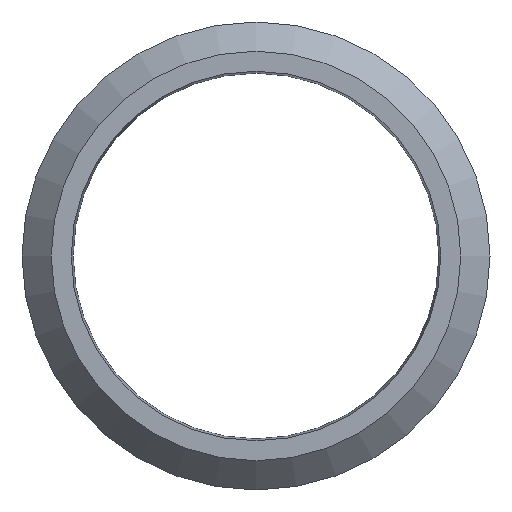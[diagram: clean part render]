
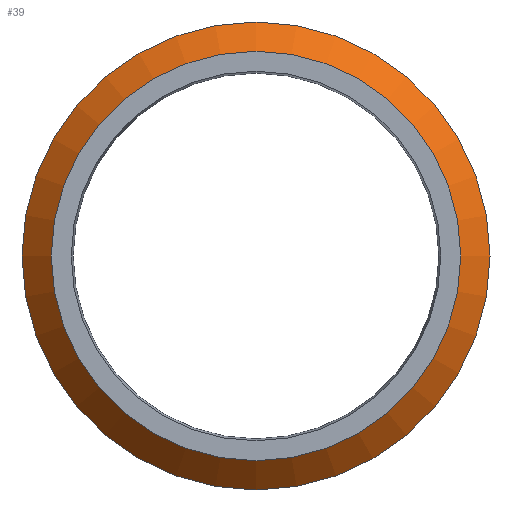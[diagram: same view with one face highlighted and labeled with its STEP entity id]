
A CAD part, left-side view. The second image highlights one B-rep face of the part: STEP entity #39.
In plain terms, the highlighted conical face has half-angle 45 degrees and reference radius 15 mm.
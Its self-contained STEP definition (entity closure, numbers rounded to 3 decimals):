
#39 = ADVANCED_FACE( '', ( #86, #87 ), #88, .T. );
#86 = FACE_BOUND( '', #153, .T. );
#87 = FACE_OUTER_BOUND( '', #154, .T. );
#88 = CONICAL_SURFACE( '', #155, 15., 0.785 );
#153 = EDGE_LOOP( '', ( #248 ) );
#154 = EDGE_LOOP( '', ( #249 ) );
#155 = AXIS2_PLACEMENT_3D( '', #250, #251, #252 );
#248 = ORIENTED_EDGE( '', *, *, #335, .T. );
#249 = ORIENTED_EDGE( '', *, *, #336, .T. );
#250 = CARTESIAN_POINT( '', ( -6.325, -8.332, 0. ) );
#251 = DIRECTION( '', ( 1., 0., 0. ) );
#252 = DIRECTION( '', ( 0., -1., 0. ) );
#335 = EDGE_CURVE( '', #365, #365, #366, .T. );
#336 = EDGE_CURVE( '', #367, #367, #368, .T. );
#365 = VERTEX_POINT( '', #410 );
#366 = CIRCLE( '', #411, 14. );
#367 = VERTEX_POINT( '', #412 );
#368 = CIRCLE( '', #413, 16. );
#410 = CARTESIAN_POINT( '', ( -7.325, -22.332, 0. ) );
#411 = AXIS2_PLACEMENT_3D( '', #454, #455, #456 );
#412 = CARTESIAN_POINT( '', ( -5.325, -24.332, 0. ) );
#413 = AXIS2_PLACEMENT_3D( '', #457, #458, #459 );
#454 = CARTESIAN_POINT( '', ( -7.325, -8.332, 0. ) );
#455 = DIRECTION( '', ( 1., 0., 0. ) );
#456 = DIRECTION( '', ( 0., -1., 0. ) );
#457 = CARTESIAN_POINT( '', ( -5.325, -8.332, 0. ) );
#458 = DIRECTION( '', ( -1., 0., 0. ) );
#459 = DIRECTION( '', ( 0., -1., 0. ) );
